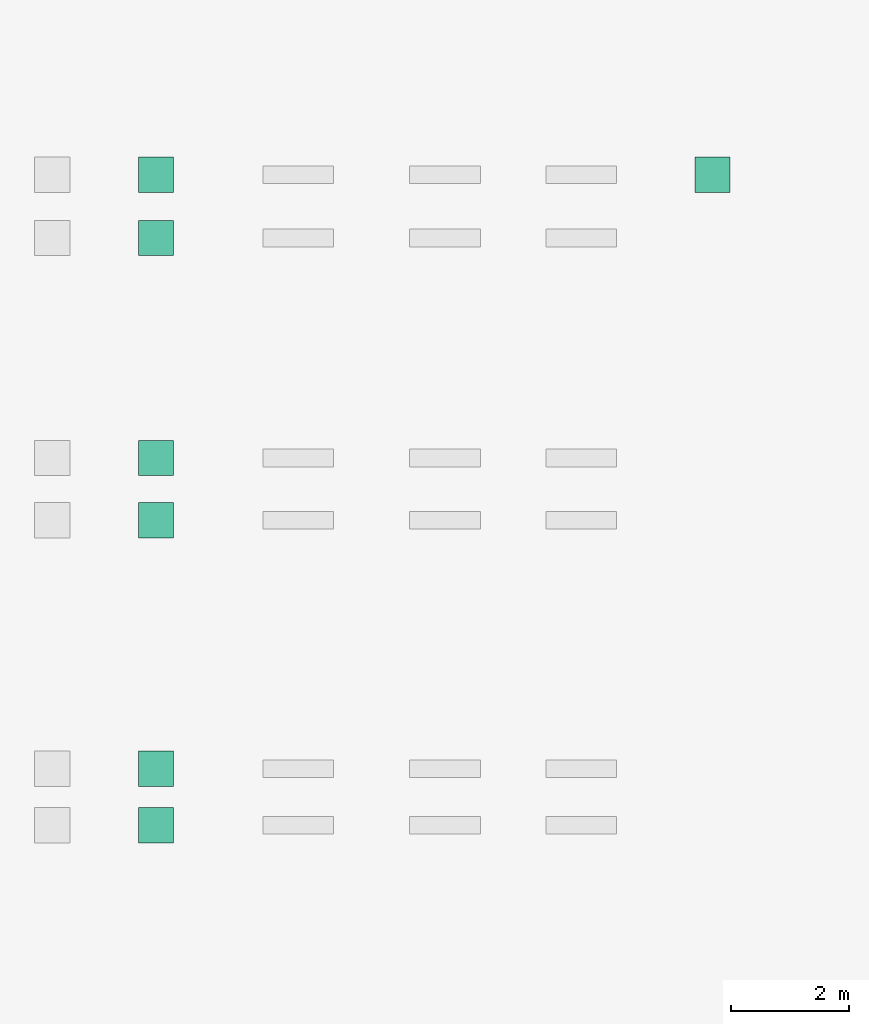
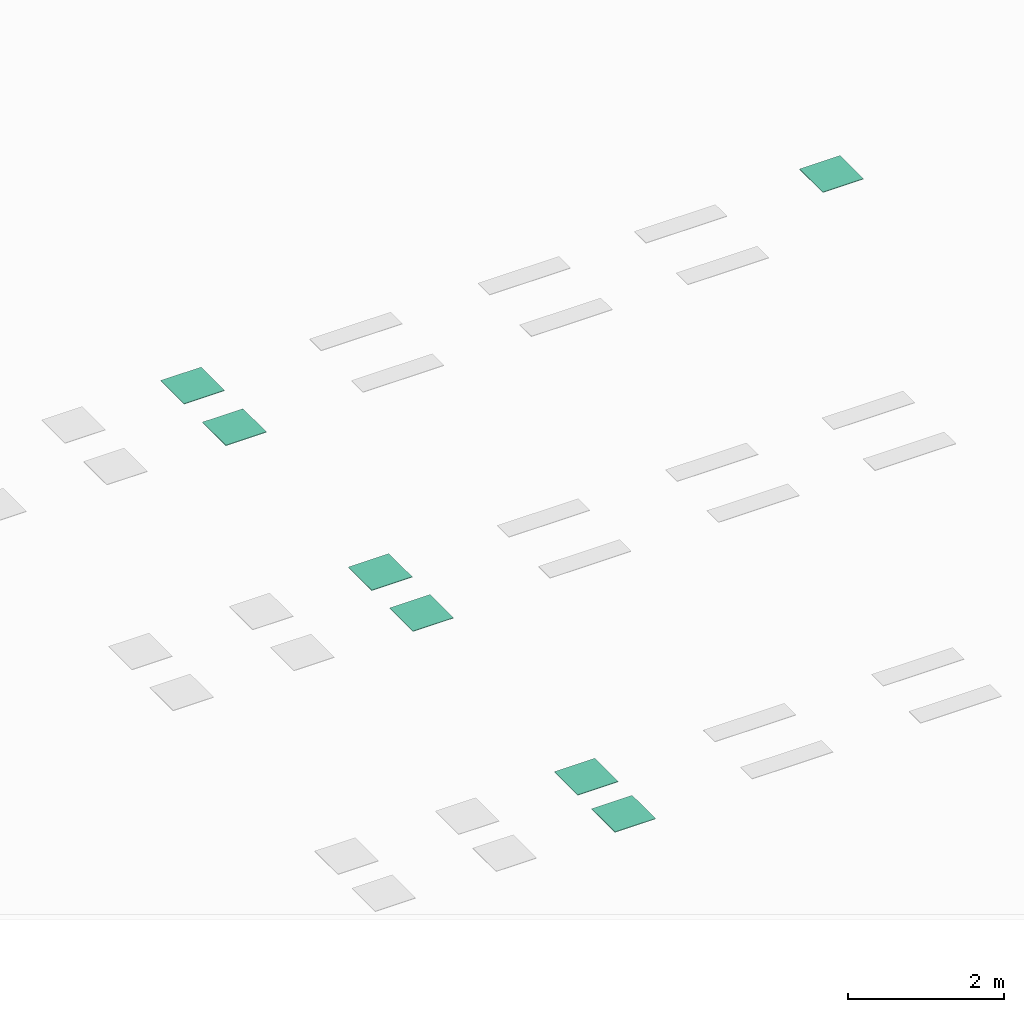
# One storey, part 21 of 197: 7 flow terminals.
"""IFC2X3 building model written with IfcOpenShell, lengths in metres."""

from ifc_helpers import new_model, entity, si_unit, converted_unit, direction, frame, origin, origin_2d_with_axis, place, context, subcontext, project, spatial, polyline, rectangle, circle, outline, extrude, source, transform, mapped, material, material_list, type_object, type_shapes, element, save


model = new_model("IFC2X3")

# Units and contexts
model_context = context("Model", 3, precision=1e-05, world=origin(), true_north=direction((6.123031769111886e-17, 1.0)))
body_context = subcontext(model_context, "Body", "Model", "MODEL_VIEW")
ifc_project = project(units=[si_unit("LENGTHUNIT", "METRE"), converted_unit("PLANEANGLEUNIT", "DEGREE", entity("IfcPlaneAngleMeasure", 0.017453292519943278), si_unit("PLANEANGLEUNIT", "RADIAN"), dimensions=[0, 0, 0, 0, 0, 0, 0]), si_unit("AREAUNIT", "SQUARE_METRE")], contexts=[model_context])

# Site, building, storey
site_placement = place(None, origin())
site = spatial("IfcSite", under=ifc_project, at=site_placement, Name="Default", CompositionType="ELEMENT")
building_placement = place(site_placement, origin())
building = spatial("IfcBuilding", under=site, at=building_placement, CompositionType="ELEMENT")
storey_placement = place(building_placement, origin())
storey = spatial("IfcBuildingStorey", under=building, at=storey_placement, Name="Niveau 0", CompositionType="ELEMENT", Elevation=0.0)

# Flow terminals
ifc_material_1 = material(Name="<Unnamed>")
ifc_material_2 = material(Name="BETCE-DIFFUSEUR-BLANC")
ifc_material_3 = material(Name="BETCE-ENVELOPPE-BLANC")
ifc_material_list = material_list([ifc_material_1, ifc_material_2, ifc_material_3])
light_fixture_type_1 = type_object("IfcLightFixtureType", Name="Pavé LED lentille encastré_saillie_suspendu:ENCASTRE - 600X600 - 2L DE 8", PredefinedType="NOTDEFINED", material=ifc_material_list)
shared_shape_1 = source(origin(), body_context, "Body", "SweptSolid", [
    extrude(circle(Radius=0.0014999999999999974, at=origin_2d_with_axis()), frame((0.28999999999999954, -0.2900000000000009, 1.51)), (0.0, 0.0, 1.0), 0.0010000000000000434),
    extrude(circle(Radius=0.0014999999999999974, at=origin_2d_with_axis()), frame((0.28999999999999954, 0.2900000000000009, 1.51)), (0.0, 0.0, 1.0), 0.0010000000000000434),
    extrude(circle(Radius=0.0014999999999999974, at=origin_2d_with_axis()), frame((-0.28999999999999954, 0.2900000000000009, 1.51)), (0.0, 0.0, 1.0), 0.0010000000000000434),
    extrude(circle(Radius=0.0014999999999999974, at=origin_2d_with_axis()), frame((-0.28999999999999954, -0.2900000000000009, 1.51)), (0.0, 0.0, 1.0), 0.0010000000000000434),
    extrude(rectangle(XDim=0.56, YDim=0.56, at=origin_2d_with_axis()), frame((0.0, 0.0, 1.5013367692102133), z_axis=(0.0, 0.0, 1.0), x_axis=(-1.0, 0.0, 0.0)), (0.0, 0.0, 1.0), 0.008663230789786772),
    extrude(outline(polyline([(-0.30000000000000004, -0.30000000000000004), (0.30000000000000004, -0.30000000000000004), (0.30000000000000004, 0.30000000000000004), (-0.30000000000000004, 0.30000000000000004), (-0.30000000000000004, -0.30000000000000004)]), holes=[polyline([(0.28, -0.28), (-0.28, -0.28), (-0.28, 0.28), (0.28, 0.28), (0.28, -0.28)])]), frame((0.0, 0.0, 1.499999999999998), z_axis=(0.0, 0.0, 1.0), x_axis=(-1.0, 0.0, 0.0)), (0.0, 0.0, 1.0), 0.010000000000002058),
])
type_shapes(light_fixture_type_1, [shared_shape_1])
flow_terminal_1_placement = place(storey_placement, frame((-512.1527105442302, 47.699573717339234, 0.0)))
element("IfcFlowTerminal", 1, at=flow_terminal_1_placement, inside=storey, type_object=light_fixture_type_1, material=ifc_material_list, Name="Pavé LED lentille encastré_saillie_suspendu:ENCASTRE - 600X600 - 2L DE 8", ObjectType="Pavé LED lentille encastré_saillie_suspendu:ENCASTRE - 600X600 - 2L DE 8", context=body_context, shape_type="MappedRepresentation", body=[
    mapped(shared_shape_1, transform((0.0, 0.0, 0.0), scale=1.0)),
])
light_fixture_type_2 = type_object("IfcLightFixtureType", Name="Pavé LED lentille encastré_saillie_suspendu:ENCASTRE - 600X600 - 4L DE 4", PredefinedType="NOTDEFINED", material=ifc_material_list)
shared_shape_2 = source(origin(), body_context, "Body", "SweptSolid", [
    extrude(circle(Radius=0.0014999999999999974, at=origin_2d_with_axis()), frame((0.28999999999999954, -0.2900000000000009, 1.51)), (0.0, 0.0, 1.0), 0.0010000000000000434),
    extrude(circle(Radius=0.0014999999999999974, at=origin_2d_with_axis()), frame((0.28999999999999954, 0.2900000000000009, 1.51)), (0.0, 0.0, 1.0), 0.0010000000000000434),
    extrude(circle(Radius=0.0014999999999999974, at=origin_2d_with_axis()), frame((-0.28999999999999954, 0.2900000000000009, 1.51)), (0.0, 0.0, 1.0), 0.0010000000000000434),
    extrude(circle(Radius=0.0014999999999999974, at=origin_2d_with_axis()), frame((-0.28999999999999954, -0.2900000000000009, 1.51)), (0.0, 0.0, 1.0), 0.0010000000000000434),
    extrude(rectangle(XDim=0.56, YDim=0.56, at=origin_2d_with_axis()), frame((0.0, 0.0, 1.5013367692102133), z_axis=(0.0, 0.0, 1.0), x_axis=(-1.0, 0.0, 0.0)), (0.0, 0.0, 1.0), 0.008663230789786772),
    extrude(outline(polyline([(-0.30000000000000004, -0.30000000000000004), (0.30000000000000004, -0.30000000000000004), (0.30000000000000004, 0.30000000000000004), (-0.30000000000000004, 0.30000000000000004), (-0.30000000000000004, -0.30000000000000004)]), holes=[polyline([(0.28, -0.28), (-0.28, -0.28), (-0.28, 0.28), (0.28, 0.28), (0.28, -0.28)])]), frame((0.0, 0.0, 1.499999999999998), z_axis=(0.0, 0.0, 1.0), x_axis=(-1.0, 0.0, 0.0)), (0.0, 0.0, 1.0), 0.010000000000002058),
])
type_shapes(light_fixture_type_2, [shared_shape_2])
flow_terminal_2_placement = place(storey_placement, frame((-521.6007105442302, 47.699573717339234, 0.0)))
element("IfcFlowTerminal", 2, at=flow_terminal_2_placement, inside=storey, type_object=light_fixture_type_2, material=ifc_material_list, Name="Pavé LED lentille encastré_saillie_suspendu:ENCASTRE - 600X600 - 4L DE 4", ObjectType="Pavé LED lentille encastré_saillie_suspendu:ENCASTRE - 600X600 - 4L DE 4", context=body_context, shape_type="MappedRepresentation", body=[
    mapped(shared_shape_2, transform((0.0, 0.0, 0.0), scale=1.0)),
])
light_fixture_type_3 = type_object("IfcLightFixtureType", Name="Pavé LED lentille encastré_saillie_suspendu:ENCASTRE DALI - 600X600 - 4L DE 4", PredefinedType="NOTDEFINED", material=ifc_material_list)
shared_shape_3 = source(origin(), body_context, "Body", "SweptSolid", [
    extrude(circle(Radius=0.0014999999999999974, at=origin_2d_with_axis()), frame((0.28999999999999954, -0.2900000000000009, 1.51)), (0.0, 0.0, 1.0), 0.0010000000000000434),
    extrude(circle(Radius=0.0014999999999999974, at=origin_2d_with_axis()), frame((0.28999999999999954, 0.2900000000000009, 1.51)), (0.0, 0.0, 1.0), 0.0010000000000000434),
    extrude(circle(Radius=0.0014999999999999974, at=origin_2d_with_axis()), frame((-0.28999999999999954, 0.2900000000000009, 1.51)), (0.0, 0.0, 1.0), 0.0010000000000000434),
    extrude(circle(Radius=0.0014999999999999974, at=origin_2d_with_axis()), frame((-0.28999999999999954, -0.2900000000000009, 1.51)), (0.0, 0.0, 1.0), 0.0010000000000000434),
    extrude(rectangle(XDim=0.56, YDim=0.56, at=origin_2d_with_axis()), frame((0.0, 0.0, 1.5013367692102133), z_axis=(0.0, 0.0, 1.0), x_axis=(-1.0, 0.0, 0.0)), (0.0, 0.0, 1.0), 0.008663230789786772),
    extrude(outline(polyline([(-0.30000000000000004, -0.30000000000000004), (0.30000000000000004, -0.30000000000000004), (0.30000000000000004, 0.30000000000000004), (-0.30000000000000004, 0.30000000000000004), (-0.30000000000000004, -0.30000000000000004)]), holes=[polyline([(0.28, -0.28), (-0.28, -0.28), (-0.28, 0.28), (0.28, 0.28), (0.28, -0.28)])]), frame((0.0, 0.0, 1.499999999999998), z_axis=(0.0, 0.0, 1.0), x_axis=(-1.0, 0.0, 0.0)), (0.0, 0.0, 1.0), 0.010000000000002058),
])
type_shapes(light_fixture_type_3, [shared_shape_3])
flow_terminal_3_placement = place(storey_placement, frame((-521.6007105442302, 46.627355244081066, 0.0)))
element("IfcFlowTerminal", 3, at=flow_terminal_3_placement, inside=storey, type_object=light_fixture_type_3, material=ifc_material_list, Name="Pavé LED lentille encastré_saillie_suspendu:ENCASTRE DALI - 600X600 - 4L DE 4", ObjectType="Pavé LED lentille encastré_saillie_suspendu:ENCASTRE DALI - 600X600 - 4L DE 4", context=body_context, shape_type="MappedRepresentation", body=[
    mapped(shared_shape_3, transform((0.0, 0.0, 0.0), scale=1.0)),
])
light_fixture_type_4 = type_object("IfcLightFixtureType", Name="Pavé LED lentille encastré_saillie_suspendu:SAILLIE - 600X600 - 4L DE 4", PredefinedType="NOTDEFINED", material=ifc_material_list)
shared_shape_4 = source(origin(), body_context, "Body", "SweptSolid", [
    extrude(circle(Radius=0.0014999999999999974, at=origin_2d_with_axis()), frame((0.28999999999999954, -0.2900000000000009, 1.51)), (0.0, 0.0, 1.0), 0.0010000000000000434),
    extrude(circle(Radius=0.0014999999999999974, at=origin_2d_with_axis()), frame((0.28999999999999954, 0.2900000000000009, 1.51)), (0.0, 0.0, 1.0), 0.0010000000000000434),
    extrude(circle(Radius=0.0014999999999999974, at=origin_2d_with_axis()), frame((-0.28999999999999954, 0.2900000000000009, 1.51)), (0.0, 0.0, 1.0), 0.0010000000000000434),
    extrude(circle(Radius=0.0014999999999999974, at=origin_2d_with_axis()), frame((-0.28999999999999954, -0.2900000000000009, 1.51)), (0.0, 0.0, 1.0), 0.0010000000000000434),
    extrude(rectangle(XDim=0.56, YDim=0.56, at=origin_2d_with_axis()), frame((0.0, 0.0, 1.5013367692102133), z_axis=(0.0, 0.0, 1.0), x_axis=(-1.0, 0.0, 0.0)), (0.0, 0.0, 1.0), 0.008663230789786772),
    extrude(outline(polyline([(-0.30000000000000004, -0.30000000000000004), (0.30000000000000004, -0.30000000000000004), (0.30000000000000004, 0.30000000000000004), (-0.30000000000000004, 0.30000000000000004), (-0.30000000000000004, -0.30000000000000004)]), holes=[polyline([(0.28, -0.28), (-0.28, -0.28), (-0.28, 0.28), (0.28, 0.28), (0.28, -0.28)])]), frame((0.0, 0.0, 1.499999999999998), z_axis=(0.0, 0.0, 1.0), x_axis=(-1.0, 0.0, 0.0)), (0.0, 0.0, 1.0), 0.010000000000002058),
])
type_shapes(light_fixture_type_4, [shared_shape_4])
flow_terminal_4_placement = place(storey_placement, frame((-521.6007105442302, 42.89135524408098, 0.0)))
element("IfcFlowTerminal", 4, at=flow_terminal_4_placement, inside=storey, type_object=light_fixture_type_4, material=ifc_material_list, Name="Pavé LED lentille encastré_saillie_suspendu:SAILLIE - 600X600 - 4L DE 4", ObjectType="Pavé LED lentille encastré_saillie_suspendu:SAILLIE - 600X600 - 4L DE 4", context=body_context, shape_type="MappedRepresentation", body=[
    mapped(shared_shape_4, transform((0.0, 0.0, 0.0), scale=1.0)),
])
light_fixture_type_5 = type_object("IfcLightFixtureType", Name="Pavé LED lentille encastré_saillie_suspendu:SAILLIE DALI - 600X600 - 4L DE 4", PredefinedType="NOTDEFINED", material=ifc_material_list)
shared_shape_5 = source(origin(), body_context, "Body", "SweptSolid", [
    extrude(circle(Radius=0.0014999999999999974, at=origin_2d_with_axis()), frame((0.28999999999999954, -0.2900000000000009, 1.51)), (0.0, 0.0, 1.0), 0.0010000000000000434),
    extrude(circle(Radius=0.0014999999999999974, at=origin_2d_with_axis()), frame((0.28999999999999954, 0.2900000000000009, 1.51)), (0.0, 0.0, 1.0), 0.0010000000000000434),
    extrude(circle(Radius=0.0014999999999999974, at=origin_2d_with_axis()), frame((-0.28999999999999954, 0.2900000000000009, 1.51)), (0.0, 0.0, 1.0), 0.0010000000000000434),
    extrude(circle(Radius=0.0014999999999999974, at=origin_2d_with_axis()), frame((-0.28999999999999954, -0.2900000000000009, 1.51)), (0.0, 0.0, 1.0), 0.0010000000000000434),
    extrude(rectangle(XDim=0.56, YDim=0.56, at=origin_2d_with_axis()), frame((0.0, 0.0, 1.5013367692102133), z_axis=(0.0, 0.0, 1.0), x_axis=(-1.0, 0.0, 0.0)), (0.0, 0.0, 1.0), 0.008663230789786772),
    extrude(outline(polyline([(-0.30000000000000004, -0.30000000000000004), (0.30000000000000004, -0.30000000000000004), (0.30000000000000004, 0.30000000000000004), (-0.30000000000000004, 0.30000000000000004), (-0.30000000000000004, -0.30000000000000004)]), holes=[polyline([(0.28, -0.28), (-0.28, -0.28), (-0.28, 0.28), (0.28, 0.28), (0.28, -0.28)])]), frame((0.0, 0.0, 1.499999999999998), z_axis=(0.0, 0.0, 1.0), x_axis=(-1.0, 0.0, 0.0)), (0.0, 0.0, 1.0), 0.010000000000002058),
])
type_shapes(light_fixture_type_5, [shared_shape_5])
flow_terminal_5_placement = place(storey_placement, frame((-521.6007105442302, 41.83535524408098, 0.0)))
element("IfcFlowTerminal", 5, at=flow_terminal_5_placement, inside=storey, type_object=light_fixture_type_5, material=ifc_material_list, Name="Pavé LED lentille encastré_saillie_suspendu:SAILLIE DALI - 600X600 - 4L DE 4", ObjectType="Pavé LED lentille encastré_saillie_suspendu:SAILLIE DALI - 600X600 - 4L DE 4", context=body_context, shape_type="MappedRepresentation", body=[
    mapped(shared_shape_5, transform((0.0, 0.0, 0.0), scale=1.0)),
])
light_fixture_type_6 = type_object("IfcLightFixtureType", Name="Pavé LED lentille encastré_saillie_suspendu:SUSPENDU - 600X600 - 4L DE 4", PredefinedType="NOTDEFINED", material=ifc_material_list)
shared_shape_6 = source(origin(), body_context, "Body", "SweptSolid", [
    extrude(circle(Radius=0.0014999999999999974, at=origin_2d_with_axis()), frame((0.28999999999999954, -0.2900000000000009, 1.51)), (0.0, 0.0, 1.0), 0.0010000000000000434),
    extrude(circle(Radius=0.0014999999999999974, at=origin_2d_with_axis()), frame((0.28999999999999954, 0.2900000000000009, 1.51)), (0.0, 0.0, 1.0), 0.0010000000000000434),
    extrude(circle(Radius=0.0014999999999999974, at=origin_2d_with_axis()), frame((-0.28999999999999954, 0.2900000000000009, 1.51)), (0.0, 0.0, 1.0), 0.0010000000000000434),
    extrude(circle(Radius=0.0014999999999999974, at=origin_2d_with_axis()), frame((-0.28999999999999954, -0.2900000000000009, 1.51)), (0.0, 0.0, 1.0), 0.0010000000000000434),
    extrude(rectangle(XDim=0.56, YDim=0.56, at=origin_2d_with_axis()), frame((0.0, 0.0, 1.5013367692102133), z_axis=(0.0, 0.0, 1.0), x_axis=(-1.0, 0.0, 0.0)), (0.0, 0.0, 1.0), 0.008663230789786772),
    extrude(outline(polyline([(-0.30000000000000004, -0.30000000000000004), (0.30000000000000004, -0.30000000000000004), (0.30000000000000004, 0.30000000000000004), (-0.30000000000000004, 0.30000000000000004), (-0.30000000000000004, -0.30000000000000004)]), holes=[polyline([(0.28, -0.28), (-0.28, -0.28), (-0.28, 0.28), (0.28, 0.28), (0.28, -0.28)])]), frame((0.0, 0.0, 1.499999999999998), z_axis=(0.0, 0.0, 1.0), x_axis=(-1.0, 0.0, 0.0)), (0.0, 0.0, 1.0), 0.010000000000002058),
])
type_shapes(light_fixture_type_6, [shared_shape_6])
flow_terminal_6_placement = place(storey_placement, frame((-521.6007105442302, 37.61435524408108, 0.0)))
element("IfcFlowTerminal", 6, at=flow_terminal_6_placement, inside=storey, type_object=light_fixture_type_6, material=ifc_material_list, Name="Pavé LED lentille encastré_saillie_suspendu:SUSPENDU - 600X600 - 4L DE 4", ObjectType="Pavé LED lentille encastré_saillie_suspendu:SUSPENDU - 600X600 - 4L DE 4", context=body_context, shape_type="MappedRepresentation", body=[
    mapped(shared_shape_6, transform((0.0, 0.0, 0.0), scale=1.0)),
])
light_fixture_type_7 = type_object("IfcLightFixtureType", Name="Pavé LED lentille encastré_saillie_suspendu:SUSPENDU DALI - 600X600 - 4L DE 4", PredefinedType="NOTDEFINED", material=ifc_material_list)
shared_shape_7 = source(origin(), body_context, "Body", "SweptSolid", [
    extrude(circle(Radius=0.0014999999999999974, at=origin_2d_with_axis()), frame((0.28999999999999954, -0.2900000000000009, 1.51)), (0.0, 0.0, 1.0), 0.0010000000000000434),
    extrude(circle(Radius=0.0014999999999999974, at=origin_2d_with_axis()), frame((0.28999999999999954, 0.2900000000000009, 1.51)), (0.0, 0.0, 1.0), 0.0010000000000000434),
    extrude(circle(Radius=0.0014999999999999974, at=origin_2d_with_axis()), frame((-0.28999999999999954, 0.2900000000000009, 1.51)), (0.0, 0.0, 1.0), 0.0010000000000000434),
    extrude(circle(Radius=0.0014999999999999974, at=origin_2d_with_axis()), frame((-0.28999999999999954, -0.2900000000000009, 1.51)), (0.0, 0.0, 1.0), 0.0010000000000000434),
    extrude(rectangle(XDim=0.56, YDim=0.56, at=origin_2d_with_axis()), frame((0.0, 0.0, 1.5013367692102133), z_axis=(0.0, 0.0, 1.0), x_axis=(-1.0, 0.0, 0.0)), (0.0, 0.0, 1.0), 0.008663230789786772),
    extrude(outline(polyline([(-0.30000000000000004, -0.30000000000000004), (0.30000000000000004, -0.30000000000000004), (0.30000000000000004, 0.30000000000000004), (-0.30000000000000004, 0.30000000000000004), (-0.30000000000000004, -0.30000000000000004)]), holes=[polyline([(0.28, -0.28), (-0.28, -0.28), (-0.28, 0.28), (0.28, 0.28), (0.28, -0.28)])]), frame((0.0, 0.0, 1.499999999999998), z_axis=(0.0, 0.0, 1.0), x_axis=(-1.0, 0.0, 0.0)), (0.0, 0.0, 1.0), 0.010000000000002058),
])
type_shapes(light_fixture_type_7, [shared_shape_7])
flow_terminal_7_placement = place(storey_placement, frame((-521.6007105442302, 36.65835524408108, 0.0)))
element("IfcFlowTerminal", 7, at=flow_terminal_7_placement, inside=storey, type_object=light_fixture_type_7, material=ifc_material_list, Name="Pavé LED lentille encastré_saillie_suspendu:SUSPENDU DALI - 600X600 - 4L DE 4", ObjectType="Pavé LED lentille encastré_saillie_suspendu:SUSPENDU DALI - 600X600 - 4L DE 4", context=body_context, shape_type="MappedRepresentation", body=[
    mapped(shared_shape_7, transform((0.0, 0.0, 0.0), scale=1.0)),
])

save(model, "model.ifc")
